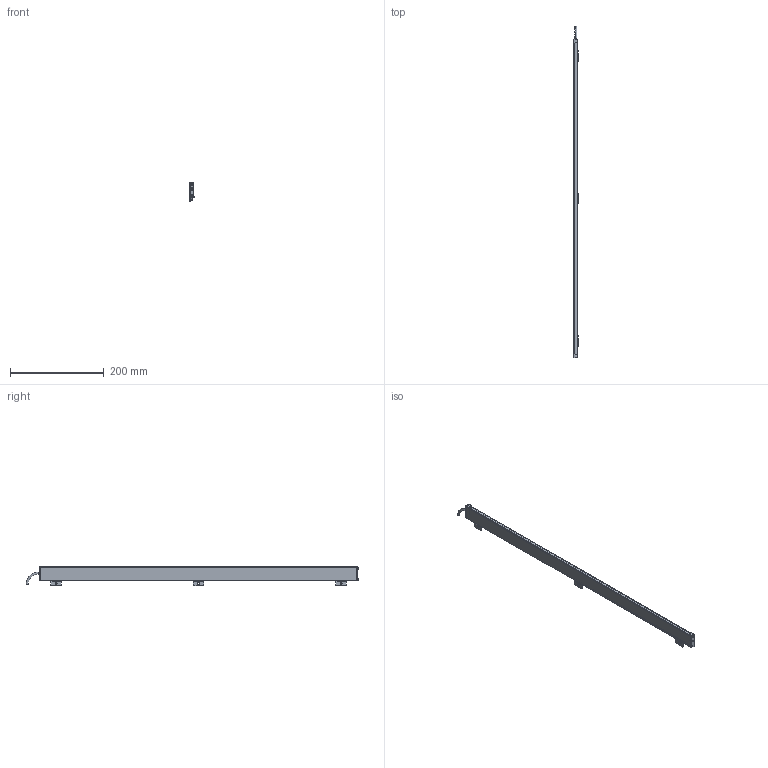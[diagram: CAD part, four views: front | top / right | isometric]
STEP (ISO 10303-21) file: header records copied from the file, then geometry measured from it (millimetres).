
FILE_DESCRIPTION (( 'STEP AP214' ), '1' );
FILE_NAME ('ILG-N-K1-0680mm.STEP', '2017-07-10T13:16:54', ( '' ), ( '' ), 'SwSTEP 2.0', 'SolidWorks 2016', '' );
FILE_SCHEMA (( 'AUTOMOTIVE_DESIGN' ));
Length unit declared in the file: millimetre
Products named in the file (1): ILG-N-K1-0680mm
Bounding box: 10.23 x 708.25 x 42.41 mm (x, y, z)
Volume: 79518.7 mm3; surface area: 117691.9 mm2
Topology: 12 solids, 12 shells, 532 faces, 1348 edges, 836 vertices
Faces by surface type: plane 296, cylinder 162, cone 64, torus 10
Entity records: 21865 total; most frequent: CARTESIAN_POINT 2865, DIRECTION 2794, ORIENTED_EDGE 2680, EDGE_CURVE 1340, AXIS2_PLACEMENT_3D 973, VECTOR 848, LINE 848, VERTEX_POINT 836
